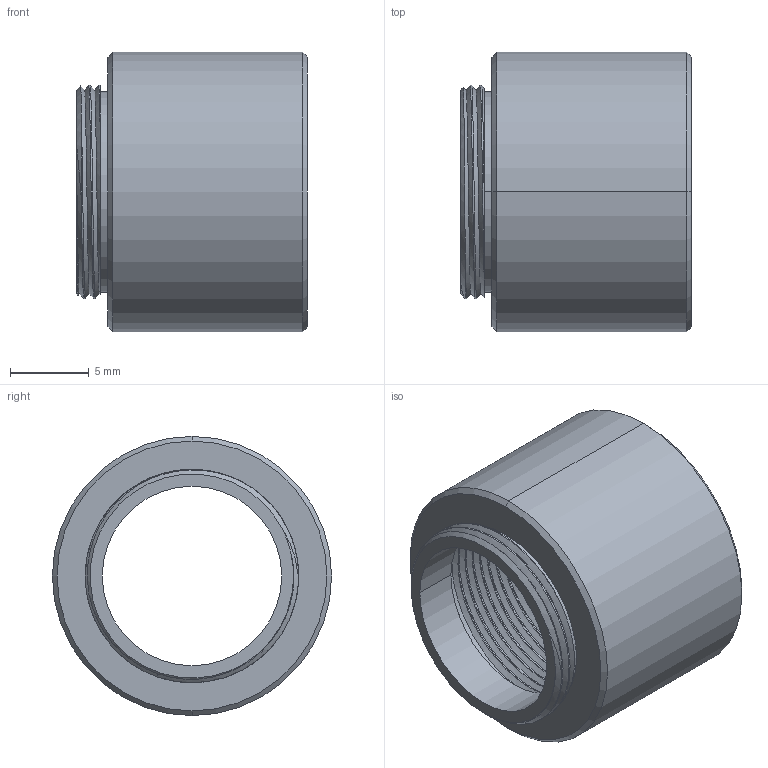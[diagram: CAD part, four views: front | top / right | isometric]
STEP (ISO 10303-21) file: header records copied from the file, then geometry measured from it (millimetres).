
FILE_DESCRIPTION((''),'2;1');
FILE_NAME('SM05L05','2022-11-14T',('daizh'),(''),'CREO PARAMETRIC BY PTC INC, 2018360','CREO PARAMETRIC BY PTC INC, 2018360','');
FILE_SCHEMA(('CONFIG_CONTROL_DESIGN'));
Length unit declared in the file: millimetre
Products named in the file (1): SM05L05
Bounding box: 14.7 x 17.78 x 17.78 mm (x, y, z)
Volume: 1456.7 mm3; surface area: 1854.9 mm2
Topology: 1 solids, 1 shells, 72 faces, 189 edges, 122 vertices
Faces by surface type: cylinder 43, bspline 16, cone 8, plane 5
Entity records: 7075 total; most frequent: CARTESIAN_POINT 5483, ORIENTED_EDGE 378, DIRECTION 226, EDGE_CURVE 189, VERTEX_POINT 122, B_SPLINE_CURVE_WITH_KNOTS 101, AXIS2_PLACEMENT_3D 82, EDGE_LOOP 77
